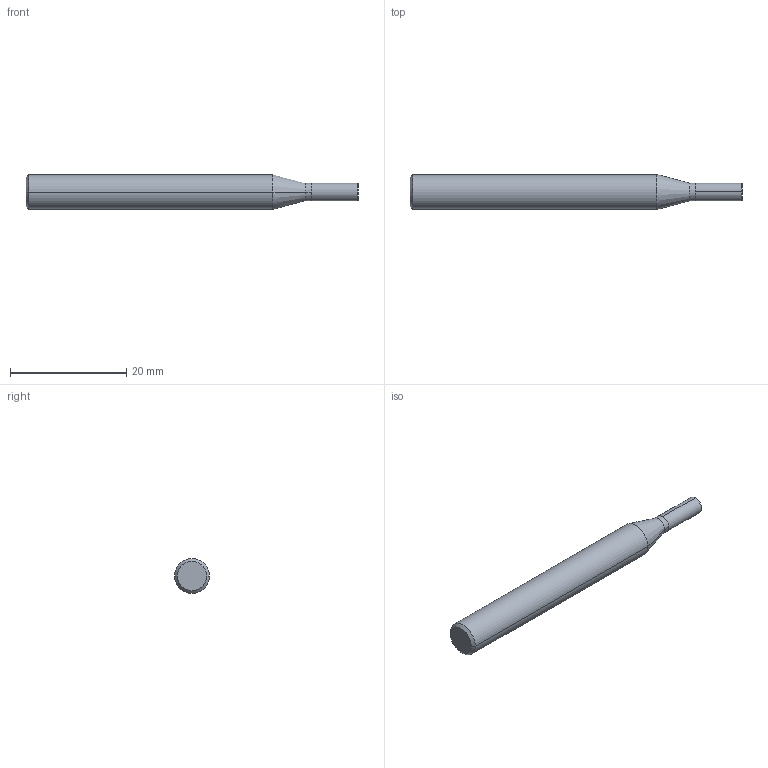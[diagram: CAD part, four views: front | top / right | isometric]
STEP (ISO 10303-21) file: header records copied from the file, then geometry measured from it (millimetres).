
FILE_DESCRIPTION (( 'STEP AP214' ), '1' );
FILE_NAME ('GMF57030.STEP', '2018-03-05T23:28:56', ( '' ), ( '' ), 'SwSTEP 2.0', 'SolidWorks 2014', '' );
FILE_SCHEMA (( 'AUTOMOTIVE_DESIGN' ));
Length unit declared in the file: millimetre
Products named in the file (1): GMF57030
Bounding box: 57 x 6 x 6 mm (x, y, z)
Volume: 1352.6 mm3; surface area: 1009.1 mm2
Topology: 2 solids, 2 shells, 16 faces, 28 edges, 16 vertices
Faces by surface type: cylinder 6, cone 6, plane 4
Entity records: 493 total; most frequent: DIRECTION 78, CARTESIAN_POINT 61, ORIENTED_EDGE 56, AXIS2_PLACEMENT_3D 33, EDGE_CURVE 28, FACE_OUTER_BOUND 16, CIRCLE 16, VERTEX_POINT 16
